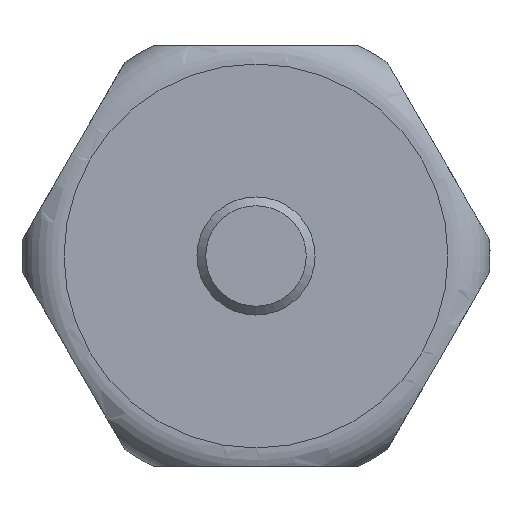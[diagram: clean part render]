
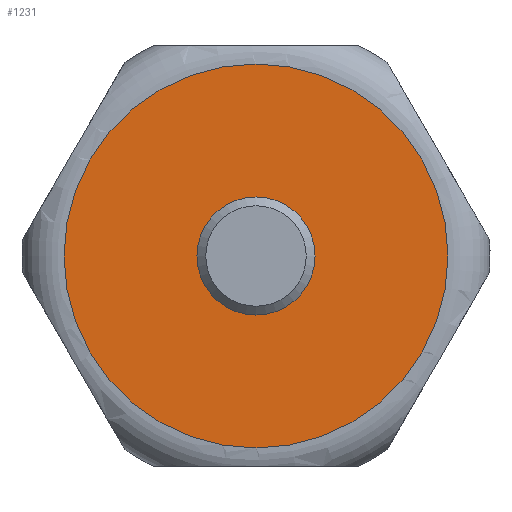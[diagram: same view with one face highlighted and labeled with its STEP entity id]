
A CAD part, left-side view. The second image highlights one B-rep face of the part: STEP entity #1231.
In plain terms, the highlighted planar face has unit normal (-1, 0, 0).
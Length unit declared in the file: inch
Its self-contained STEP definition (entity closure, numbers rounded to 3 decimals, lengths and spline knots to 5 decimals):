
#157=FACE_BOUND('',#276,.T.);
#202=FACE_OUTER_BOUND('',#275,.T.);
#275=EDGE_LOOP('',(#921,#922));
#276=EDGE_LOOP('',(#923,#924));
#350=CIRCLE('',#1333,0.14764);
#351=CIRCLE('',#1334,0.14764);
#377=CIRCLE('',#1378,0.51181);
#378=CIRCLE('',#1379,0.51181);
#470=VERTEX_POINT('',#1977);
#471=VERTEX_POINT('',#1978);
#510=VERTEX_POINT('',#2238);
#511=VERTEX_POINT('',#2239);
#608=EDGE_CURVE('',#470,#471,#350,.T.);
#609=EDGE_CURVE('',#471,#470,#351,.T.);
#665=EDGE_CURVE('',#510,#511,#377,.T.);
#666=EDGE_CURVE('',#511,#510,#378,.T.);
#921=ORIENTED_EDGE('',*,*,#665,.F.);
#922=ORIENTED_EDGE('',*,*,#666,.F.);
#923=ORIENTED_EDGE('',*,*,#608,.T.);
#924=ORIENTED_EDGE('',*,*,#609,.T.);
#1112=PLANE('',#1377);
#1231=ADVANCED_FACE('',(#202,#157),#1112,.T.);
#1333=AXIS2_PLACEMENT_3D('',#1979,#1575,#1576);
#1334=AXIS2_PLACEMENT_3D('',#1980,#1577,#1578);
#1377=AXIS2_PLACEMENT_3D('',#2237,#1679,#1680);
#1378=AXIS2_PLACEMENT_3D('',#2240,#1681,#1682);
#1379=AXIS2_PLACEMENT_3D('',#2241,#1683,#1684);
#1575=DIRECTION('center_axis',(1.,0.,0.));
#1576=DIRECTION('ref_axis',(0.,-0.866,0.5));
#1577=DIRECTION('center_axis',(1.,0.,0.));
#1578=DIRECTION('ref_axis',(0.,-0.866,0.5));
#1679=DIRECTION('center_axis',(-1.,0.,0.));
#1680=DIRECTION('ref_axis',(0.,-0.866,0.5));
#1681=DIRECTION('center_axis',(1.,0.,0.));
#1682=DIRECTION('ref_axis',(0.,0.866,-0.5));
#1683=DIRECTION('center_axis',(1.,0.,0.));
#1684=DIRECTION('ref_axis',(0.,0.866,-0.5));
#1977=CARTESIAN_POINT('',(-2.66747,-0.02656,-0.27052));
#1978=CARTESIAN_POINT('',(-2.66747,0.22916,-0.41816));
#1979=CARTESIAN_POINT('Origin',(-2.66747,0.1013,-0.34434));
#1980=CARTESIAN_POINT('Origin',(-2.66747,0.1013,-0.34434));
#2237=CARTESIAN_POINT('Origin',(-2.66747,0.54454,-0.60025));
#2238=CARTESIAN_POINT('',(-2.66747,0.54454,-0.60025));
#2239=CARTESIAN_POINT('',(-2.66747,-0.34194,-0.08844));
#2240=CARTESIAN_POINT('Origin',(-2.66747,0.1013,-0.34434));
#2241=CARTESIAN_POINT('Origin',(-2.66747,0.1013,-0.34434));
